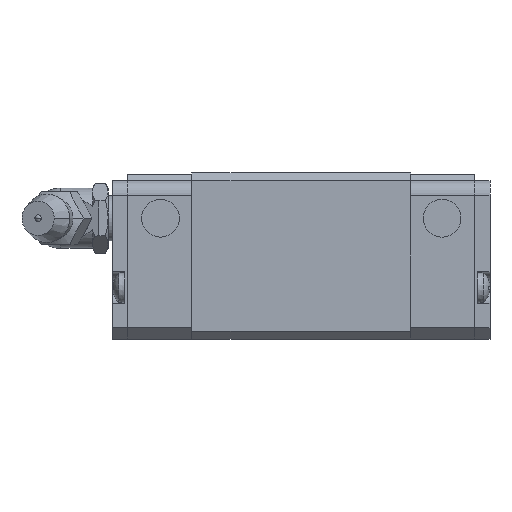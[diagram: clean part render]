
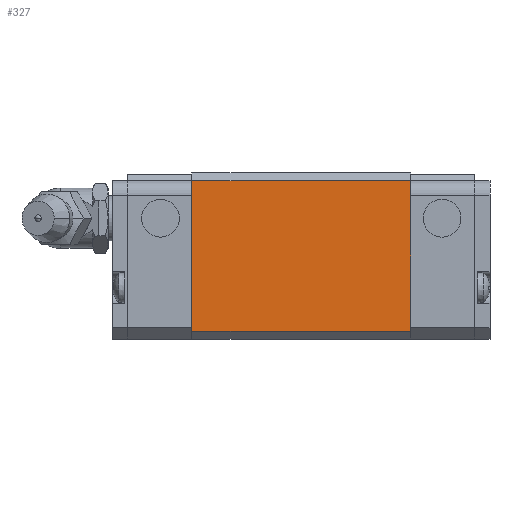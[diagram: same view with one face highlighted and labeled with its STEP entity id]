
A CAD part, front view. The second image highlights one B-rep face of the part: STEP entity #327.
In plain terms, the highlighted planar face has unit normal (0, -1, 0).
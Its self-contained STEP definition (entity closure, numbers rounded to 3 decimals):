
#266=CARTESIAN_POINT('POINT18',(39.5,-21.,1.
   ));
#267=VERTEX_POINT('VERTEX18',#266);
#274=CARTESIAN_POINT('POINT19',(10.5,-21.,1.
   ));
#275=VERTEX_POINT('VERTEX19',#274);
#276=CARTESIAN_POINT('POS29',(10.5,-21.,1.))
   ;
#277=DIRECTION('DIR42',(1.,0.,0.));
#278=VECTOR('VEC16',#277,1.);
#279=LINE('STRAIGHT16',#276,#278);
#280=EDGE_CURVE('EDGE28',#275,#267,#279,.T.);
#297=CARTESIAN_POINT('POINT20',(39.5,-21.,
   21.));
#298=VERTEX_POINT('VERTEX20',#297);
#299=CARTESIAN_POINT('POS32',(39.5,-21.,1.))
   ;
#300=DIRECTION('DIR46',(0.,0.,1.));
#301=VECTOR('VEC18',#300,1.);
#302=LINE('STRAIGHT18',#299,#301);
#303=EDGE_CURVE('EDGE30',#267,#298,#302,.T.);
#304=ORIENTED_EDGE('COEDGE51',*,*,#303,.T.);
#305=CARTESIAN_POINT('POINT21',(10.5,-21.,
   21.));
#306=VERTEX_POINT('VERTEX21',#305);
#307=CARTESIAN_POINT('POS33',(10.5,-21.,21.)
   );
#308=DIRECTION('DIR47',(1.,0.,0.));
#309=VECTOR('VEC19',#308,1.);
#310=LINE('STRAIGHT19',#307,#309);
#311=EDGE_CURVE('EDGE31',#306,#298,#310,.T.);
#312=ORIENTED_EDGE('COEDGE52',*,*,#311,.F.);
#313=CARTESIAN_POINT('POS34',(10.5,-21.,1.))
   ;
#314=DIRECTION('DIR48',(0.,0.,1.));
#315=VECTOR('VEC20',#314,1.);
#316=LINE('STRAIGHT20',#313,#315);
#317=EDGE_CURVE('EDGE32',#275,#306,#316,.T.);
#318=ORIENTED_EDGE('COEDGE53',*,*,#317,.F.);
#319=ORIENTED_EDGE('COEDGE54',*,*,#280,.T.);
#320=EDGE_LOOP('NONE',(#304,#312,#318,#319));
#321=FACE_BOUND('LOOP1',#320,.T.);
#322=CARTESIAN_POINT('POS35',(10.5,-21.,1.))
   ;
#323=DIRECTION('DIR49',(0.,-1.,0.));
#324=DIRECTION('DIR50',(1.,0.,0.));
#325=AXIS2_PLACEMENT_3D('AXIS15',#322,#323,#324);
#326=PLANE('PLANE4',#325);
#327=ADVANCED_FACE('FACE14',(#321),#326,.T.);
